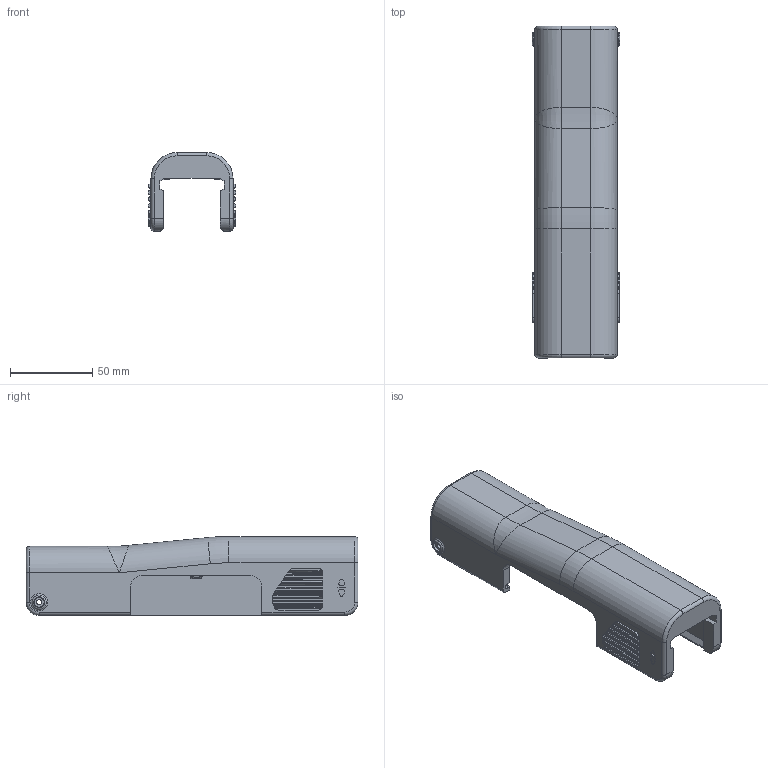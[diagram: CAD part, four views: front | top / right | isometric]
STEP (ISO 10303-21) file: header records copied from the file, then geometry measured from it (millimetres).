
FILE_DESCRIPTION(('HOOPS Exchange Step'),'2;1');
FILE_NAME('/private/var/mobile/Containers/Data/Application/BD34B793-0C88-4333-9201-EB529B1DDC1B/tmp/export/temp_export','2026-07-21T19:17:58+18:00',('mobile'),('Shapr3D Limited'),'HOOPS Exchange 2026.3','Shapr3D','Authorized');
FILE_SCHEMA( ('AP242_MANAGED_MODEL_BASED_3D_ENGINEERING_MIM_LF {1 0 10303 442 1 1 4}') );
Length unit declared in the file: millimetre
Products named in the file (2): Cheek pad; root
Assembly tree (1 placements, depth 2):
  root
    Cheek pad
Bounding box: 53 x 202 x 48 mm (x, y, z)
Volume: 121466.8 mm3; surface area: 50644.7 mm2
Topology: 1 solids, 1 shells, 273 faces, 752 edges, 489 vertices
Faces by surface type: plane 133, cylinder 109, torus 16, bspline 11, extrusion 4
Full cylindrical faces by diameter (mm): 3.2 x2, 3.25 x1, 6 x2
Entity records: 17147 total; most frequent: CARTESIAN_POINT 10079, ORIENTED_EDGE 1496, DIRECTION 1456, EDGE_CURVE 748, AXIS2_PLACEMENT_3D 506, VERTEX_POINT 489, VECTOR 444, LINE 440
